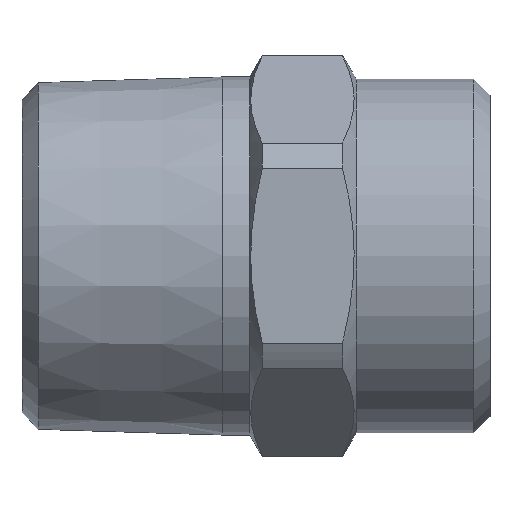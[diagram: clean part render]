
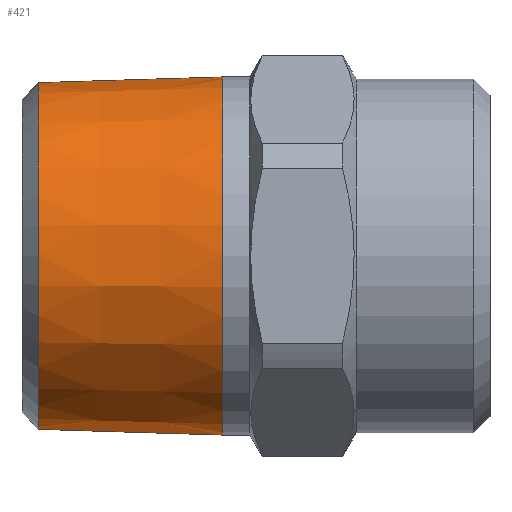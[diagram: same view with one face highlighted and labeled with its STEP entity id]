
A CAD part, top view. The second image highlights one B-rep face of the part: STEP entity #421.
In plain terms, the highlighted conical face has half-angle 1.78 degrees and reference radius 13.158 mm.
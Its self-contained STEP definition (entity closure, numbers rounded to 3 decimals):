
#49=CARTESIAN_POINT('',(15.0,13.391,0.0));
#50=VERTEX_POINT('',#49);
#59=CARTESIAN_POINT('',(15.0,-13.391,0.));
#60=VERTEX_POINT('',#59);
#61=CARTESIAN_POINT('',(15.0,0.0,0.0));
#62=DIRECTION('',(1.0,0.0,0.0));
#63=DIRECTION('',(0.0,1.0,0.0));
#64=AXIS2_PLACEMENT_3D('',#61,#62,#63);
#65=CIRCLE('',#64,13.391);
#66=EDGE_CURVE('',#50,#60,#65,.T.);
#390=CARTESIAN_POINT('',(7.5,0.0,0.0));
#391=DIRECTION('',(1.0,0.0,0.0));
#392=DIRECTION('',(0.0,1.0,0.0));
#393=AXIS2_PLACEMENT_3D('',#390,#391,#392);
#394=CONICAL_SURFACE('',#393,13.158,1.78);
#395=CARTESIAN_POINT('',(1.199,12.962,0.));
#396=VERTEX_POINT('',#395);
#397=CARTESIAN_POINT('',(1.199,12.962,0.));
#398=DIRECTION('',(1.,0.031,0.));
#399=VECTOR('',#398,13.807);
#400=LINE('',#397,#399);
#401=EDGE_CURVE('',#396,#50,#400,.T.);
#402=ORIENTED_EDGE('',*,*,#401,.F.);
#403=CARTESIAN_POINT('',(1.199,-12.962,0.));
#404=VERTEX_POINT('',#403);
#405=CARTESIAN_POINT('',(1.199,0.0,0.));
#406=DIRECTION('',(-1.0,0.0,0.0));
#407=DIRECTION('',(0.0,-1.0,0.0));
#408=AXIS2_PLACEMENT_3D('',#405,#406,#407);
#409=CIRCLE('',#408,12.962);
#410=EDGE_CURVE('',#404,#396,#409,.T.);
#411=ORIENTED_EDGE('',*,*,#410,.F.);
#412=CARTESIAN_POINT('',(15.0,-13.391,0.));
#413=DIRECTION('',(-1.,0.031,0.));
#414=VECTOR('',#413,13.807);
#415=LINE('',#412,#414);
#416=EDGE_CURVE('',#60,#404,#415,.T.);
#417=ORIENTED_EDGE('',*,*,#416,.F.);
#418=ORIENTED_EDGE('',*,*,#66,.F.);
#419=EDGE_LOOP('',(#402,#411,#417,#418));
#420=FACE_OUTER_BOUND('',#419,.T.);
#421=ADVANCED_FACE('',(#420),#394,.T.);
